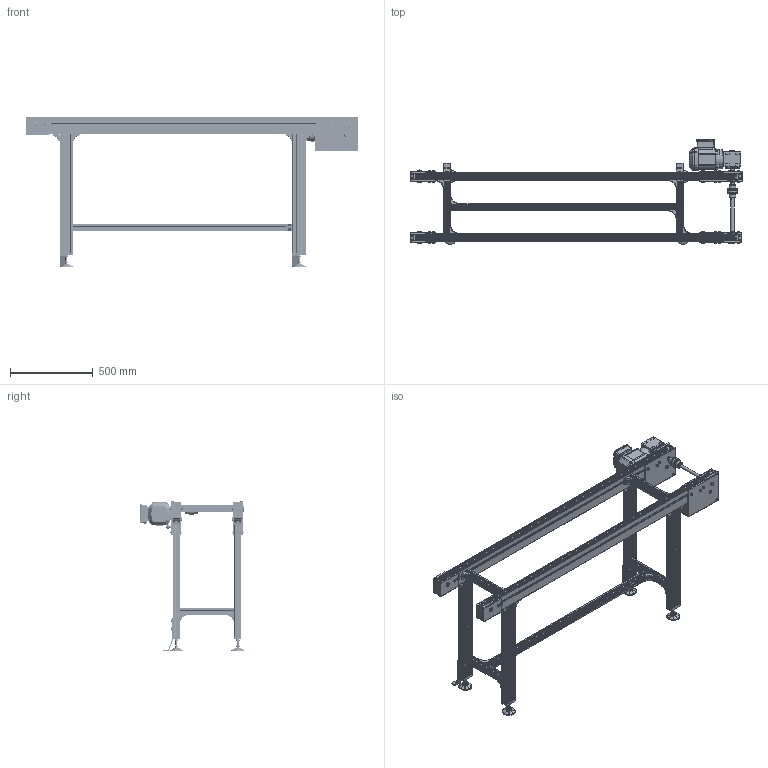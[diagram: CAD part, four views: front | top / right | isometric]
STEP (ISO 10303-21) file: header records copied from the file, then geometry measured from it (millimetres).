
FILE_DESCRIPTION(/* description */ (''),/* implementation_level */ '2;1');
FILE_NAME(/* name */ 'C:\Marketing\01_Versamove-SPU_STEP-Dateien-Homepage\VersamoveStandard\B400\STEP-Dateien\Staurollenförderer_SRF-P-2045_B400_L2000.stp',/* time_stamp */ '2016-12-21T12:19:21+01:00',/* author */ ('herbert.engels'),/* organization */ (''),/* preprocessor_version */ 'ST-DEVELOPER v15.6',/* originating_system */ 'Autodesk Inventor 2015',/* authorisation */ '');
FILE_SCHEMA (('CONFIG_CONTROL_DESIGN'));
Products named in the file (1): Staurollenförderer_SRF-P-2045_B400_L2000
Bounding box: 2000 x 630.57 x 905.05 mm (x, y, z)
Volume: 27836691.9 mm3; surface area: 5960149 mm2
Topology: 7 solids, 7 shells, 5282 faces, 14170 edges, 9130 vertices
Faces by surface type: plane 3224, cylinder 1496, cone 373, torus 123, sphere 50, bspline 16
Full cylindrical faces by diameter (mm): 2 x8, 6 x12, 6.647 x8, 7.323 x4, 8 x66, 8.5 x48, 8.7 x4, 9 x8, 10 x4, 10.066 x1, 11.4 x24, 12 x8, 13 x74, 13.6 x8, 14 x40, 15 x8, 16 x10, 18 x4, 19 x4, 19.77 x4, 20 x17, 25 x1, 25.05 x4, 28 x1, 30 x2, 40 x2, 53 x1, 54 x2, 56 x3, 79 x4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
Entity records: 169910 total; most frequent: CARTESIAN_POINT 33430, ORIENTED_EDGE 26916, DIRECTION 26900, EDGE_CURVE 13449, AXIS2_PLACEMENT_3D 9107, VERTEX_POINT 8959, LINE 8686, VECTOR 8686
